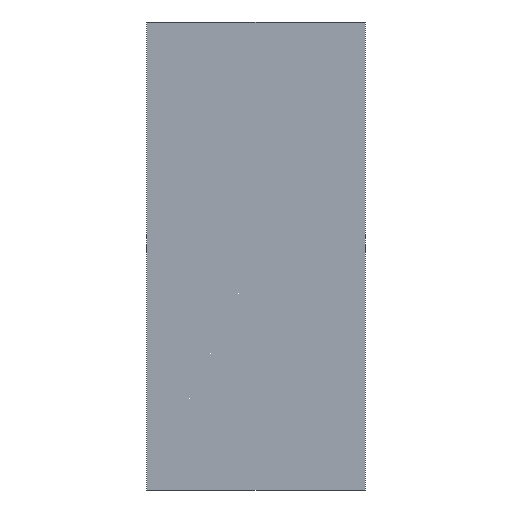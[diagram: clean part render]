
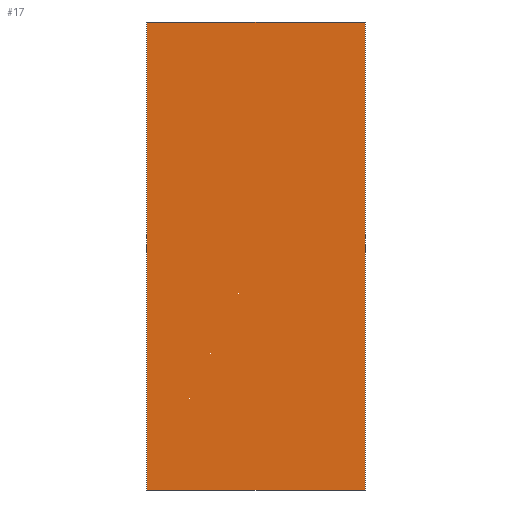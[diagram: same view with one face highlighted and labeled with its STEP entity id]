
A CAD part, left-side view. The second image highlights one B-rep face of the part: STEP entity #17.
In plain terms, the highlighted planar face has unit normal (-1, 0, 0).
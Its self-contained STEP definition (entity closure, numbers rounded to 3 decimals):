
#17 = ADVANCED_FACE('',(#18),#32,.F.);
#18 = FACE_BOUND('',#19,.F.);
#19 = EDGE_LOOP('',(#20,#55,#83,#111));
#20 = ORIENTED_EDGE('',*,*,#21,.F.);
#21 = EDGE_CURVE('',#22,#24,#26,.T.);
#22 = VERTEX_POINT('',#23);
#23 = CARTESIAN_POINT('',(160.,0.,0.));
#24 = VERTEX_POINT('',#25);
#25 = CARTESIAN_POINT('',(160.,0.,600.));
#26 = SURFACE_CURVE('',#27,(#31,#43),.PCURVE_S1.);
#27 = LINE('',#28,#29);
#28 = CARTESIAN_POINT('',(160.,0.,0.));
#29 = VECTOR('',#30,1.);
#30 = DIRECTION('',(0.,0.,1.));
#31 = PCURVE('',#32,#37);
#32 = PLANE('',#33);
#33 = AXIS2_PLACEMENT_3D('',#34,#35,#36);
#34 = CARTESIAN_POINT('',(160.,0.,0.));
#35 = DIRECTION('',(1.,0.,0.));
#36 = DIRECTION('',(0.,0.,1.));
#37 = DEFINITIONAL_REPRESENTATION('',(#38),#42);
#38 = LINE('',#39,#40);
#39 = CARTESIAN_POINT('',(0.,0.));
#40 = VECTOR('',#41,1.);
#41 = DIRECTION('',(1.,0.));
#42 = ( GEOMETRIC_REPRESENTATION_CONTEXT(2) 
PARAMETRIC_REPRESENTATION_CONTEXT() REPRESENTATION_CONTEXT('2D SPACE',''
  ) );
#43 = PCURVE('',#44,#49);
#44 = PLANE('',#45);
#45 = AXIS2_PLACEMENT_3D('',#46,#47,#48);
#46 = CARTESIAN_POINT('',(160.,0.,0.));
#47 = DIRECTION('',(0.,1.,0.));
#48 = DIRECTION('',(0.,0.,1.));
#49 = DEFINITIONAL_REPRESENTATION('',(#50),#54);
#50 = LINE('',#51,#52);
#51 = CARTESIAN_POINT('',(0.,0.));
#52 = VECTOR('',#53,1.);
#53 = DIRECTION('',(1.,0.));
#54 = ( GEOMETRIC_REPRESENTATION_CONTEXT(2) 
PARAMETRIC_REPRESENTATION_CONTEXT() REPRESENTATION_CONTEXT('2D SPACE',''
  ) );
#55 = ORIENTED_EDGE('',*,*,#56,.T.);
#56 = EDGE_CURVE('',#22,#57,#59,.T.);
#57 = VERTEX_POINT('',#58);
#58 = CARTESIAN_POINT('',(160.,280.,0.));
#59 = SURFACE_CURVE('',#60,(#64,#71),.PCURVE_S1.);
#60 = LINE('',#61,#62);
#61 = CARTESIAN_POINT('',(160.,0.,0.));
#62 = VECTOR('',#63,1.);
#63 = DIRECTION('',(0.,1.,0.));
#64 = PCURVE('',#32,#65);
#65 = DEFINITIONAL_REPRESENTATION('',(#66),#70);
#66 = LINE('',#67,#68);
#67 = CARTESIAN_POINT('',(0.,0.));
#68 = VECTOR('',#69,1.);
#69 = DIRECTION('',(0.,-1.));
#70 = ( GEOMETRIC_REPRESENTATION_CONTEXT(2) 
PARAMETRIC_REPRESENTATION_CONTEXT() REPRESENTATION_CONTEXT('2D SPACE',''
  ) );
#71 = PCURVE('',#72,#77);
#72 = PLANE('',#73);
#73 = AXIS2_PLACEMENT_3D('',#74,#75,#76);
#74 = CARTESIAN_POINT('',(160.,0.,0.));
#75 = DIRECTION('',(0.,0.,1.));
#76 = DIRECTION('',(1.,0.,0.));
#77 = DEFINITIONAL_REPRESENTATION('',(#78),#82);
#78 = LINE('',#79,#80);
#79 = CARTESIAN_POINT('',(0.,0.));
#80 = VECTOR('',#81,1.);
#81 = DIRECTION('',(0.,1.));
#82 = ( GEOMETRIC_REPRESENTATION_CONTEXT(2) 
PARAMETRIC_REPRESENTATION_CONTEXT() REPRESENTATION_CONTEXT('2D SPACE',''
  ) );
#83 = ORIENTED_EDGE('',*,*,#84,.T.);
#84 = EDGE_CURVE('',#57,#85,#87,.T.);
#85 = VERTEX_POINT('',#86);
#86 = CARTESIAN_POINT('',(160.,280.,600.));
#87 = SURFACE_CURVE('',#88,(#92,#99),.PCURVE_S1.);
#88 = LINE('',#89,#90);
#89 = CARTESIAN_POINT('',(160.,280.,0.));
#90 = VECTOR('',#91,1.);
#91 = DIRECTION('',(0.,0.,1.));
#92 = PCURVE('',#32,#93);
#93 = DEFINITIONAL_REPRESENTATION('',(#94),#98);
#94 = LINE('',#95,#96);
#95 = CARTESIAN_POINT('',(0.,-280.));
#96 = VECTOR('',#97,1.);
#97 = DIRECTION('',(1.,0.));
#98 = ( GEOMETRIC_REPRESENTATION_CONTEXT(2) 
PARAMETRIC_REPRESENTATION_CONTEXT() REPRESENTATION_CONTEXT('2D SPACE',''
  ) );
#99 = PCURVE('',#100,#105);
#100 = PLANE('',#101);
#101 = AXIS2_PLACEMENT_3D('',#102,#103,#104);
#102 = CARTESIAN_POINT('',(160.,280.,0.));
#103 = DIRECTION('',(0.,1.,0.));
#104 = DIRECTION('',(0.,0.,1.));
#105 = DEFINITIONAL_REPRESENTATION('',(#106),#110);
#106 = LINE('',#107,#108);
#107 = CARTESIAN_POINT('',(0.,0.));
#108 = VECTOR('',#109,1.);
#109 = DIRECTION('',(1.,0.));
#110 = ( GEOMETRIC_REPRESENTATION_CONTEXT(2) 
PARAMETRIC_REPRESENTATION_CONTEXT() REPRESENTATION_CONTEXT('2D SPACE',''
  ) );
#111 = ORIENTED_EDGE('',*,*,#112,.F.);
#112 = EDGE_CURVE('',#24,#85,#113,.T.);
#113 = SURFACE_CURVE('',#114,(#118,#125),.PCURVE_S1.);
#114 = LINE('',#115,#116);
#115 = CARTESIAN_POINT('',(160.,0.,600.));
#116 = VECTOR('',#117,1.);
#117 = DIRECTION('',(0.,1.,0.));
#118 = PCURVE('',#32,#119);
#119 = DEFINITIONAL_REPRESENTATION('',(#120),#124);
#120 = LINE('',#121,#122);
#121 = CARTESIAN_POINT('',(600.,0.));
#122 = VECTOR('',#123,1.);
#123 = DIRECTION('',(0.,-1.));
#124 = ( GEOMETRIC_REPRESENTATION_CONTEXT(2) 
PARAMETRIC_REPRESENTATION_CONTEXT() REPRESENTATION_CONTEXT('2D SPACE',''
  ) );
#125 = PCURVE('',#126,#131);
#126 = PLANE('',#127);
#127 = AXIS2_PLACEMENT_3D('',#128,#129,#130);
#128 = CARTESIAN_POINT('',(160.,0.,600.));
#129 = DIRECTION('',(0.,0.,1.));
#130 = DIRECTION('',(1.,0.,0.));
#131 = DEFINITIONAL_REPRESENTATION('',(#132),#136);
#132 = LINE('',#133,#134);
#133 = CARTESIAN_POINT('',(0.,0.));
#134 = VECTOR('',#135,1.);
#135 = DIRECTION('',(0.,1.));
#136 = ( GEOMETRIC_REPRESENTATION_CONTEXT(2) 
PARAMETRIC_REPRESENTATION_CONTEXT() REPRESENTATION_CONTEXT('2D SPACE',''
  ) );
